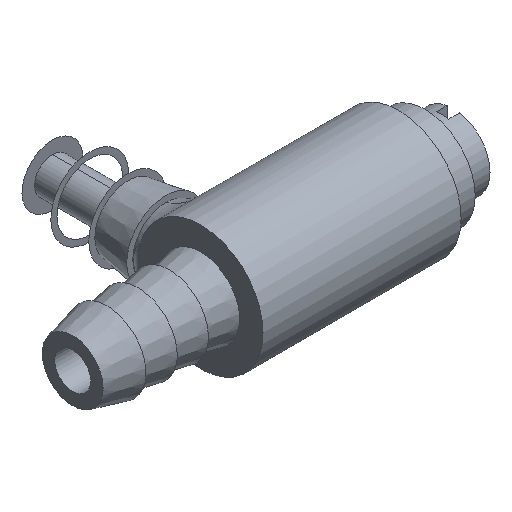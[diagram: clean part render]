
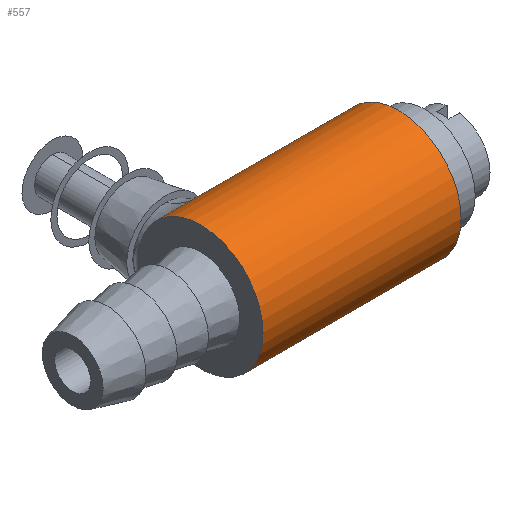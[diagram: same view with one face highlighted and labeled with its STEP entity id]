
A CAD part, isometric view. The second image highlights one B-rep face of the part: STEP entity #557.
In plain terms, the highlighted cylindrical face has radius 4 mm (diameter 8 mm), a full revolution.
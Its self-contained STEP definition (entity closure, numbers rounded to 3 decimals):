
#49=B_SPLINE_CURVE_WITH_KNOTS('',3,(#1020,#1021,#1022,#1023,#1024,#1025,
#1026,#1027,#1028,#1029,#1030,#1031,#1032,#1033,#1034,#1035),
 .UNSPECIFIED.,.F.,.F.,(4,2,2,2,2,2,2,4),(-1.593,-1.593,
-1.548,-1.501,-1.448,-1.319,
-1.213,-1.207),.UNSPECIFIED.);
#50=B_SPLINE_CURVE_WITH_KNOTS('',3,(#1037,#1038,#1039,#1040,#1041,#1042,
#1043,#1044,#1045,#1046,#1047,#1048,#1049,#1050,#1051,#1052,#1053,#1054,
#1055,#1056,#1057,#1058,#1059,#1060,#1061,#1062,#1063,#1064,#1065),
 .UNSPECIFIED.,.F.,.F.,(4,2,2,2,2,2,2,3,2,2,2,2,2,4),(-0.507,
-0.506,-0.46,-0.412,-0.357,
-0.191,-0.09,0.,0.09,0.189,
0.396,0.493,0.539,0.576),
 .UNSPECIFIED.);
#51=B_SPLINE_CURVE_WITH_KNOTS('',3,(#1067,#1068,#1069,#1070,#1071,#1072,
#1073,#1074,#1075,#1076,#1077,#1078),.UNSPECIFIED.,.F.,.F.,(4,2,2,2,2,4),
(-0.987,-0.907,-0.693,-0.593,
-0.545,-0.507),.UNSPECIFIED.);
#57=CYLINDRICAL_SURFACE('',#650,4.);
#71=FACE_OUTER_BOUND('',#106,.T.);
#106=EDGE_LOOP('',(#436,#437,#438,#439,#440,#441,#442,#443,#444));
#152=LINE('',#1016,#173);
#173=VECTOR('',#805,4.);
#220=CIRCLE('',#651,4.);
#221=CIRCLE('',#652,4.);
#222=CIRCLE('',#653,4.);
#223=CIRCLE('',#654,4.);
#277=VERTEX_POINT('',#1011);
#278=VERTEX_POINT('',#1012);
#279=VERTEX_POINT('',#1015);
#280=VERTEX_POINT('',#1017);
#281=VERTEX_POINT('',#1019);
#282=VERTEX_POINT('',#1036);
#283=VERTEX_POINT('',#1066);
#346=EDGE_CURVE('',#277,#278,#220,.T.);
#347=EDGE_CURVE('',#278,#277,#221,.T.);
#348=EDGE_CURVE('',#278,#279,#152,.T.);
#349=EDGE_CURVE('',#279,#280,#222,.T.);
#350=EDGE_CURVE('',#281,#280,#49,.T.);
#351=EDGE_CURVE('',#282,#281,#50,.T.);
#352=EDGE_CURVE('',#283,#282,#51,.T.);
#353=EDGE_CURVE('',#283,#279,#223,.T.);
#436=ORIENTED_EDGE('',*,*,#346,.F.);
#437=ORIENTED_EDGE('',*,*,#347,.F.);
#438=ORIENTED_EDGE('',*,*,#348,.T.);
#439=ORIENTED_EDGE('',*,*,#349,.T.);
#440=ORIENTED_EDGE('',*,*,#350,.F.);
#441=ORIENTED_EDGE('',*,*,#351,.F.);
#442=ORIENTED_EDGE('',*,*,#352,.F.);
#443=ORIENTED_EDGE('',*,*,#353,.T.);
#444=ORIENTED_EDGE('',*,*,#348,.F.);
#557=ADVANCED_FACE('',(#71),#57,.T.);
#650=AXIS2_PLACEMENT_3D('',#1010,#799,#800);
#651=AXIS2_PLACEMENT_3D('',#1013,#801,#802);
#652=AXIS2_PLACEMENT_3D('',#1014,#803,#804);
#653=AXIS2_PLACEMENT_3D('',#1018,#806,#807);
#654=AXIS2_PLACEMENT_3D('',#1079,#808,#809);
#799=DIRECTION('center_axis',(-1.,0.,0.));
#800=DIRECTION('ref_axis',(0.,1.,0.));
#801=DIRECTION('center_axis',(1.,0.,0.));
#802=DIRECTION('ref_axis',(0.,0.,-1.));
#803=DIRECTION('center_axis',(1.,0.,0.));
#804=DIRECTION('ref_axis',(0.,0.,-1.));
#805=DIRECTION('',(-1.,0.,0.));
#806=DIRECTION('center_axis',(1.,0.,0.));
#807=DIRECTION('ref_axis',(0.,0.964,0.265));
#808=DIRECTION('center_axis',(1.,0.,0.));
#809=DIRECTION('ref_axis',(0.,0.964,0.265));
#1010=CARTESIAN_POINT('Origin',(12.7,0.,0.));
#1011=CARTESIAN_POINT('',(12.7,0.,4.));
#1012=CARTESIAN_POINT('',(12.7,-4.,0.));
#1013=CARTESIAN_POINT('Origin',(12.7,0.,0.));
#1014=CARTESIAN_POINT('Origin',(12.7,0.,0.));
#1015=CARTESIAN_POINT('',(0.,-4.,0.));
#1016=CARTESIAN_POINT('',(12.7,-4.,0.));
#1017=CARTESIAN_POINT('',(0.,3.857,-1.06));
#1018=CARTESIAN_POINT('Origin',(0.,0.,0.));
#1019=CARTESIAN_POINT('',(2.,2.663,-2.984));
#1020=CARTESIAN_POINT('Ctrl Pts',(2.,2.663,-2.984));
#1021=CARTESIAN_POINT('Ctrl Pts',(1.999,2.663,-2.984));
#1022=CARTESIAN_POINT('Ctrl Pts',(1.999,2.663,-2.984));
#1023=CARTESIAN_POINT('Ctrl Pts',(1.964,2.664,-2.984));
#1024=CARTESIAN_POINT('Ctrl Pts',(1.93,2.669,-2.979));
#1025=CARTESIAN_POINT('Ctrl Pts',(1.853,2.692,-2.958));
#1026=CARTESIAN_POINT('Ctrl Pts',(1.803,2.712,-2.941));
#1027=CARTESIAN_POINT('Ctrl Pts',(1.653,2.787,-2.87));
#1028=CARTESIAN_POINT('Ctrl Pts',(1.56,2.839,-2.819));
#1029=CARTESIAN_POINT('Ctrl Pts',(1.232,3.033,-2.615));
#1030=CARTESIAN_POINT('Ctrl Pts',(0.904,3.242,-2.374));
#1031=CARTESIAN_POINT('Ctrl Pts',(0.365,3.602,-1.768));
#1032=CARTESIAN_POINT('Ctrl Pts',(0.164,3.742,-1.458));
#1033=CARTESIAN_POINT('Ctrl Pts',(0.016,3.846,-1.1));
#1034=CARTESIAN_POINT('Ctrl Pts',(0.008,3.851,
-1.08));
#1035=CARTESIAN_POINT('Ctrl Pts',(0.,3.857,
-1.06));
#1036=CARTESIAN_POINT('',(2.,2.663,2.984));
#1037=CARTESIAN_POINT('Ctrl Pts',(2.,2.663,2.984));
#1038=CARTESIAN_POINT('Ctrl Pts',(2.,2.663,2.984));
#1039=CARTESIAN_POINT('Ctrl Pts',(2.001,2.663,2.984));
#1040=CARTESIAN_POINT('Ctrl Pts',(2.035,2.664,2.984));
#1041=CARTESIAN_POINT('Ctrl Pts',(2.07,2.669,2.979));
#1042=CARTESIAN_POINT('Ctrl Pts',(2.146,2.692,2.958));
#1043=CARTESIAN_POINT('Ctrl Pts',(2.196,2.712,2.941));
#1044=CARTESIAN_POINT('Ctrl Pts',(2.346,2.786,2.871));
#1045=CARTESIAN_POINT('Ctrl Pts',(2.438,2.838,2.82));
#1046=CARTESIAN_POINT('Ctrl Pts',(2.822,3.065,2.582));
#1047=CARTESIAN_POINT('Ctrl Pts',(3.244,3.338,2.262));
#1048=CARTESIAN_POINT('Ctrl Pts',(3.79,3.709,1.529));
#1049=CARTESIAN_POINT('Ctrl Pts',(3.953,3.823,1.223));
#1050=CARTESIAN_POINT('Ctrl Pts',(4.155,3.966,0.601));
#1051=CARTESIAN_POINT('Ctrl Pts',(4.202,4.,0.3));
#1052=CARTESIAN_POINT('Ctrl Pts',(4.202,4.,0.));
#1053=CARTESIAN_POINT('Ctrl Pts',(4.202,4.,-0.3));
#1054=CARTESIAN_POINT('Ctrl Pts',(4.155,3.966,-0.593));
#1055=CARTESIAN_POINT('Ctrl Pts',(3.969,3.835,-1.18));
#1056=CARTESIAN_POINT('Ctrl Pts',(3.828,3.736,-1.453));
#1057=CARTESIAN_POINT('Ctrl Pts',(3.316,3.386,-2.202));
#1058=CARTESIAN_POINT('Ctrl Pts',(2.891,3.108,-2.531));
#1059=CARTESIAN_POINT('Ctrl Pts',(2.451,2.845,-2.814));
#1060=CARTESIAN_POINT('Ctrl Pts',(2.321,2.771,-2.886));
#1061=CARTESIAN_POINT('Ctrl Pts',(2.173,2.703,-2.949));
#1062=CARTESIAN_POINT('Ctrl Pts',(2.129,2.686,-2.964));
#1063=CARTESIAN_POINT('Ctrl Pts',(2.057,2.667,-2.981));
#1064=CARTESIAN_POINT('Ctrl Pts',(2.028,2.663,-2.984));
#1065=CARTESIAN_POINT('Ctrl Pts',(2.,2.663,-2.984));
#1066=CARTESIAN_POINT('',(0.,3.857,1.06));
#1067=CARTESIAN_POINT('Ctrl Pts',(0.,3.857,
1.06));
#1068=CARTESIAN_POINT('Ctrl Pts',(0.089,3.794,1.289));
#1069=CARTESIAN_POINT('Ctrl Pts',(0.203,3.715,1.499));
#1070=CARTESIAN_POINT('Ctrl Pts',(0.679,3.389,2.197));
#1071=CARTESIAN_POINT('Ctrl Pts',(1.105,3.111,2.528));
#1072=CARTESIAN_POINT('Ctrl Pts',(1.547,2.846,2.813));
#1073=CARTESIAN_POINT('Ctrl Pts',(1.678,2.771,2.885));
#1074=CARTESIAN_POINT('Ctrl Pts',(1.827,2.703,2.949));
#1075=CARTESIAN_POINT('Ctrl Pts',(1.87,2.686,2.964));
#1076=CARTESIAN_POINT('Ctrl Pts',(1.943,2.667,2.981));
#1077=CARTESIAN_POINT('Ctrl Pts',(1.972,2.663,2.984));
#1078=CARTESIAN_POINT('Ctrl Pts',(2.,2.663,2.984));
#1079=CARTESIAN_POINT('Origin',(0.,0.,0.));
